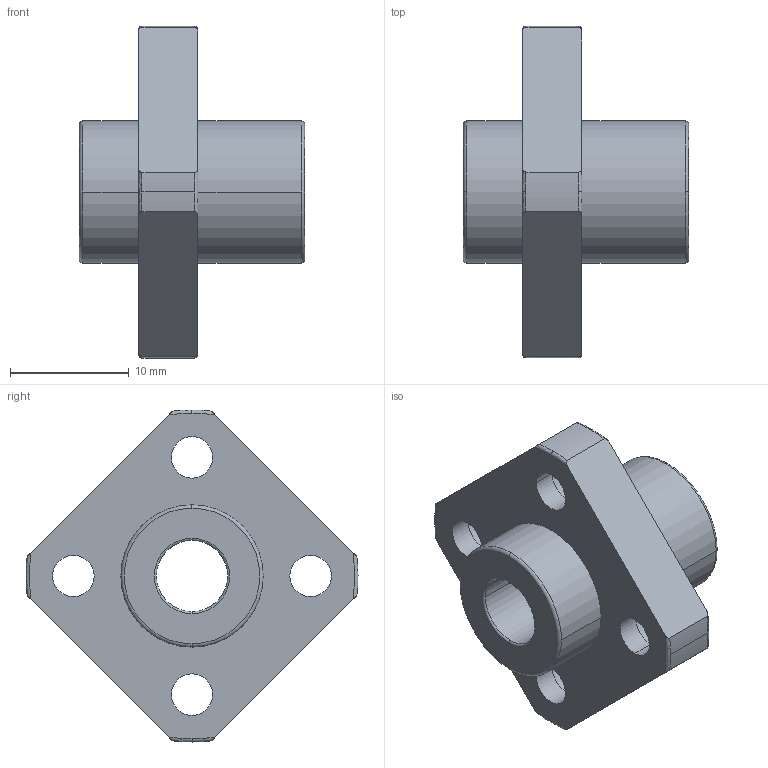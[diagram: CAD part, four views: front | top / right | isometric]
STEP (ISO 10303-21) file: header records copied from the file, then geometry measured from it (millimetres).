
FILE_DESCRIPTION(('FreeCAD Model'),'2;1');
FILE_NAME('Open CASCADE Shape Model','2021-05-03T13:59:28',('Author'),( ''),'Open CASCADE STEP processor 7.5','FreeCAD','Unknown');
FILE_SCHEMA(('AUTOMOTIVE_DESIGN { 1 0 10303 214 1 1 1 1 }'));
Length unit declared in the file: millimetre
Products named in the file (1): linear_lmkp6uu
Bounding box: 19 x 28 x 28 mm (x, y, z)
Volume: 2990 mm3; surface area: 2414.8 mm2
Topology: 1 solids, 1 shells, 60 faces, 160 edges, 108 vertices
Faces by surface type: cylinder 28, torus 20, plane 12
Entity records: 5232 total; most frequent: CARTESIAN_POINT 2029, DIRECTION 620, ORIENTED_EDGE 320, PCURVE 320, DEFINITIONAL_REPRESENTATION 320, LINE 268, VECTOR 268, AXIS2_PLACEMENT_3D 165
